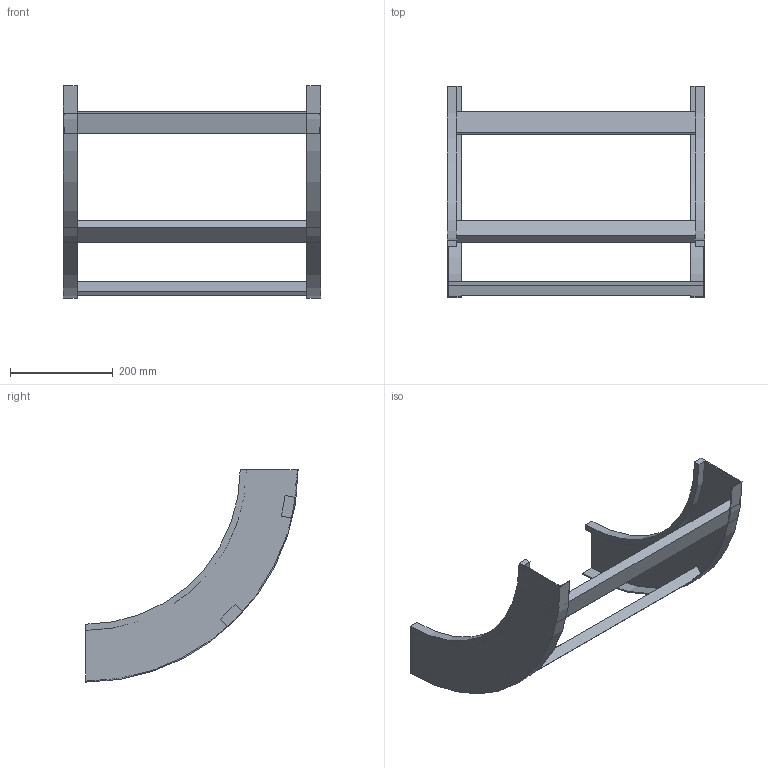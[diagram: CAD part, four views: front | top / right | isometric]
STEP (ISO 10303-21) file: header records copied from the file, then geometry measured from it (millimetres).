
FILE_DESCRIPTION (( 'STEP AP214' ), '1' );
FILE_NAME ('B2X30B3J500XX.step', '2025-03-20T10:22:50', ( '' ), ( '' ), 'SwSTEP 2.0', 'SolidWorks 2023', '' );
FILE_SCHEMA (( 'AUTOMOTIVE_DESIGN' ));
Length unit declared in the file: millimetre
Products named in the file (3): TRAVERSINO_500; B2_LONGH.SALITA_90°_H112.5_R300; B2X30B3J500XX
Assembly tree (5 placements, depth 2):
  B2X30B3J500XX
    B2_LONGH.SALITA_90°_H112.5_R300  x2
    TRAVERSINO_500  x3
Bounding box: 500 x 412.5 x 412.5 mm (x, y, z)
Volume: 1706311.4 mm3; surface area: 538471.8 mm2
Topology: 5 solids, 5 shells, 38 faces, 84 edges, 56 vertices
Faces by surface type: plane 30, cylinder 8
Entity records: 560 total; most frequent: DIRECTION 92, CARTESIAN_POINT 84, ORIENTED_EDGE 72, EDGE_CURVE 36, AXIS2_PLACEMENT_3D 32, VECTOR 28, LINE 28, VERTEX_POINT 24
